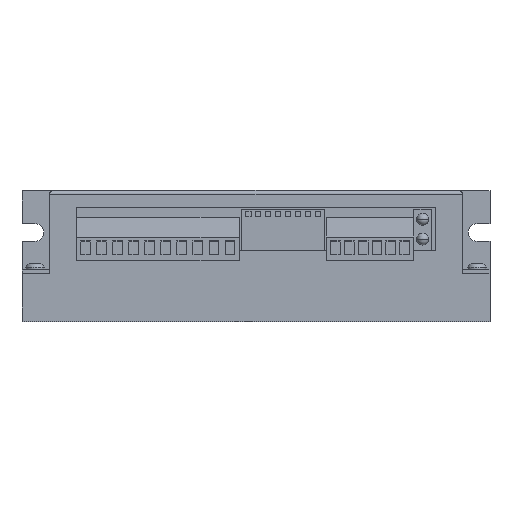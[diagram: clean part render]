
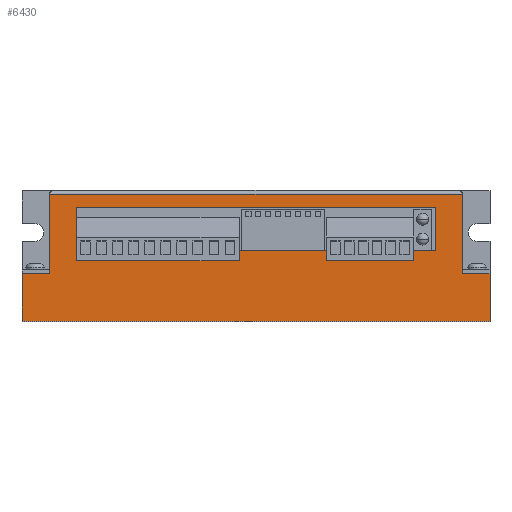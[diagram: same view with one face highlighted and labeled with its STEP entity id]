
A CAD part, top view. The second image highlights one B-rep face of the part: STEP entity #6430.
In plain terms, the highlighted planar face has unit normal (0, 0, 1).
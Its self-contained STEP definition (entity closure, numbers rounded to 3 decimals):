
#74 = VERTEX_POINT ( 'NONE', #11969 ) ;
#125 = VECTOR ( 'NONE', #7903, 1000. ) ;
#307 = LINE ( 'NONE', #13894, #6590 ) ;
#361 = DIRECTION ( 'NONE',  ( 0., -1., 0. ) ) ;
#654 = VERTEX_POINT ( 'NONE', #4434 ) ;
#711 = CARTESIAN_POINT ( 'NONE',  ( -73.278, 17.7, 27.951 ) ) ;
#855 = DIRECTION ( 'NONE',  ( 0., 1., 0. ) ) ;
#878 = ORIENTED_EDGE ( 'NONE', *, *, #9590, .F. ) ;
#1067 = VECTOR ( 'NONE', #5275, 1000. ) ;
#1097 = EDGE_CURVE ( 'NONE', #12603, #4885, #11695, .T. ) ;
#1160 = CARTESIAN_POINT ( 'NONE',  ( -80.028, 32., 27.951 ) ) ;
#1473 = VERTEX_POINT ( 'NONE', #6792 ) ;
#1584 = CARTESIAN_POINT ( 'NONE',  ( -87.028, 12., 27.951 ) ) ;
#1762 = LINE ( 'NONE', #7396, #8478 ) ;
#1789 = VERTEX_POINT ( 'NONE', #7668 ) ;
#1877 = EDGE_CURVE ( 'NONE', #14820, #1473, #307, .T. ) ;
#2265 = ORIENTED_EDGE ( 'NONE', *, *, #10390, .F. ) ;
#2302 = VECTOR ( 'NONE', #361, 1000. ) ;
#2317 = CARTESIAN_POINT ( 'NONE',  ( -73.278, 28.7, 27.951 ) ) ;
#2362 = DIRECTION ( 'NONE',  ( 0., -1., 0. ) ) ;
#2387 = DIRECTION ( 'NONE',  ( 1., 0., 0. ) ) ;
#2448 = VECTOR ( 'NONE', #4041, 1000. ) ;
#2484 = DIRECTION ( 'NONE',  ( 1., 0., 0. ) ) ;
#2935 = DIRECTION ( 'NONE',  ( 0., -1., 0. ) ) ;
#3090 = CARTESIAN_POINT ( 'NONE',  ( -80.028, 12., 27.951 ) ) ;
#3296 = LINE ( 'NONE', #13787, #3697 ) ;
#3479 = VECTOR ( 'NONE', #3590, 1000. ) ;
#3505 = VERTEX_POINT ( 'NONE', #14341 ) ;
#3558 = CARTESIAN_POINT ( 'NONE',  ( -73.278, 17.7, 27.951 ) ) ;
#3590 = DIRECTION ( 'NONE',  ( 0., 1., 0. ) ) ;
#3697 = VECTOR ( 'NONE', #2387, 1000. ) ;
#3996 = VECTOR ( 'NONE', #13205, 1000. ) ;
#4006 = LINE ( 'NONE', #11886, #13557 ) ;
#4041 = DIRECTION ( 'NONE',  ( 0., -1., 0. ) ) ;
#4199 = ORIENTED_EDGE ( 'NONE', *, *, #7724, .T. ) ;
#4201 = FACE_BOUND ( 'NONE', #5921, .T. ) ;
#4419 = FACE_OUTER_BOUND ( 'NONE', #6366, .T. ) ;
#4434 = CARTESIAN_POINT ( 'NONE',  ( 23.972, 12., 27.951 ) ) ;
#4639 = ORIENTED_EDGE ( 'NONE', *, *, #4670, .F. ) ;
#4670 = EDGE_CURVE ( 'NONE', #3505, #14820, #13161, .T. ) ;
#4885 = VERTEX_POINT ( 'NONE', #1160 ) ;
#5168 = CARTESIAN_POINT ( 'NONE',  ( 30.972, 33., 27.951 ) ) ;
#5222 = EDGE_CURVE ( 'NONE', #654, #74, #3296, .T. ) ;
#5256 = CARTESIAN_POINT ( 'NONE',  ( -87.028, 33., 27.951 ) ) ;
#5275 = DIRECTION ( 'NONE',  ( 0., -1., 0. ) ) ;
#5404 = CARTESIAN_POINT ( 'NONE',  ( 30.972, 0., 27.951 ) ) ;
#5467 = LINE ( 'NONE', #5168, #2448 ) ;
#5720 = VERTEX_POINT ( 'NONE', #8139 ) ;
#5921 = EDGE_LOOP ( 'NONE', ( #11018, #10955, #4639, #14280, #12718, #2265 ) ) ;
#5967 = ORIENTED_EDGE ( 'NONE', *, *, #14410, .F. ) ;
#6254 = EDGE_CURVE ( 'NONE', #5720, #654, #10658, .T. ) ;
#6366 = EDGE_LOOP ( 'NONE', ( #11722, #11920, #10951, #878, #8045, #4199, #5967, #13741 ) ) ;
#6430 = ADVANCED_FACE ( 'NONE', ( #4201, #4419 ), #13663, .F. ) ;
#6436 = CARTESIAN_POINT ( 'NONE',  ( 17.222, 28.7, 27.951 ) ) ;
#6590 = VECTOR ( 'NONE', #2484, 1000. ) ;
#6680 = CARTESIAN_POINT ( 'NONE',  ( -87.028, 33., 27.951 ) ) ;
#6792 = CARTESIAN_POINT ( 'NONE',  ( 17.222, 17.7, 27.951 ) ) ;
#6901 = CARTESIAN_POINT ( 'NONE',  ( -80.028, 33., 27.951 ) ) ;
#7347 = VECTOR ( 'NONE', #2935, 1000. ) ;
#7396 = CARTESIAN_POINT ( 'NONE',  ( -73.278, 28.7, 27.951 ) ) ;
#7432 = LINE ( 'NONE', #5256, #9704 ) ;
#7668 = CARTESIAN_POINT ( 'NONE',  ( -87.028, 12., 27.951 ) ) ;
#7724 = EDGE_CURVE ( 'NONE', #11688, #11444, #14657, .T. ) ;
#7899 = EDGE_CURVE ( 'NONE', #13187, #13271, #10375, .T. ) ;
#7903 = DIRECTION ( 'NONE',  ( 1., 0., 0. ) ) ;
#8025 = CARTESIAN_POINT ( 'NONE',  ( -87.028, 0., 27.951 ) ) ;
#8045 = ORIENTED_EDGE ( 'NONE', *, *, #11506, .T. ) ;
#8139 = CARTESIAN_POINT ( 'NONE',  ( 23.972, 32., 27.951 ) ) ;
#8424 = DIRECTION ( 'NONE',  ( -1., 0., 0. ) ) ;
#8433 = DIRECTION ( 'NONE',  ( -1., 0., 0. ) ) ;
#8478 = VECTOR ( 'NONE', #8433, 1000. ) ;
#8872 = CARTESIAN_POINT ( 'NONE',  ( 17.222, 28.7, 27.951 ) ) ;
#8998 = VECTOR ( 'NONE', #855, 1000. ) ;
#9590 = EDGE_CURVE ( 'NONE', #1789, #12603, #14183, .T. ) ;
#9704 = VECTOR ( 'NONE', #14267, 1000. ) ;
#9902 = DIRECTION ( 'NONE',  ( 0., 0., -1. ) ) ;
#9983 = EDGE_CURVE ( 'NONE', #13271, #3505, #10780, .T. ) ;
#10375 = LINE ( 'NONE', #3558, #13331 ) ;
#10390 = EDGE_CURVE ( 'NONE', #13051, #13187, #1762, .T. ) ;
#10658 = LINE ( 'NONE', #14271, #7347 ) ;
#10780 = LINE ( 'NONE', #14162, #2302 ) ;
#10951 = ORIENTED_EDGE ( 'NONE', *, *, #1097, .F. ) ;
#10955 = ORIENTED_EDGE ( 'NONE', *, *, #1877, .F. ) ;
#11018 = ORIENTED_EDGE ( 'NONE', *, *, #12249, .F. ) ;
#11444 = VERTEX_POINT ( 'NONE', #5404 ) ;
#11506 = EDGE_CURVE ( 'NONE', #1789, #11688, #7432, .T. ) ;
#11688 = VERTEX_POINT ( 'NONE', #8025 ) ;
#11695 = LINE ( 'NONE', #6901, #3479 ) ;
#11722 = ORIENTED_EDGE ( 'NONE', *, *, #6254, .F. ) ;
#11886 = CARTESIAN_POINT ( 'NONE',  ( -80.028, 32., 27.951 ) ) ;
#11920 = ORIENTED_EDGE ( 'NONE', *, *, #12117, .T. ) ;
#11969 = CARTESIAN_POINT ( 'NONE',  ( 30.972, 12., 27.951 ) ) ;
#12117 = EDGE_CURVE ( 'NONE', #5720, #4885, #4006, .T. ) ;
#12249 = EDGE_CURVE ( 'NONE', #1473, #13051, #13231, .T. ) ;
#12603 = VERTEX_POINT ( 'NONE', #3090 ) ;
#12670 = CARTESIAN_POINT ( 'NONE',  ( -73.278, 25.2, 27.951 ) ) ;
#12718 = ORIENTED_EDGE ( 'NONE', *, *, #7899, .F. ) ;
#13051 = VERTEX_POINT ( 'NONE', #6436 ) ;
#13161 = LINE ( 'NONE', #711, #1067 ) ;
#13187 = VERTEX_POINT ( 'NONE', #2317 ) ;
#13205 = DIRECTION ( 'NONE',  ( 1., 0., 0. ) ) ;
#13231 = LINE ( 'NONE', #8872, #8998 ) ;
#13271 = VERTEX_POINT ( 'NONE', #12670 ) ;
#13331 = VECTOR ( 'NONE', #2362, 1000. ) ;
#13536 = CARTESIAN_POINT ( 'NONE',  ( -87.028, 0., 27.951 ) ) ;
#13557 = VECTOR ( 'NONE', #8424, 1000. ) ;
#13601 = AXIS2_PLACEMENT_3D ( 'NONE', #6680, #9902, #14487 ) ;
#13663 = PLANE ( 'NONE',  #13601 ) ;
#13741 = ORIENTED_EDGE ( 'NONE', *, *, #5222, .F. ) ;
#13771 = CARTESIAN_POINT ( 'NONE',  ( -73.278, 17.7, 27.951 ) ) ;
#13787 = CARTESIAN_POINT ( 'NONE',  ( 30.972, 12., 27.951 ) ) ;
#13894 = CARTESIAN_POINT ( 'NONE',  ( 17.222, 17.7, 27.951 ) ) ;
#14162 = CARTESIAN_POINT ( 'NONE',  ( -73.278, 17.7, 27.951 ) ) ;
#14183 = LINE ( 'NONE', #1584, #3996 ) ;
#14267 = DIRECTION ( 'NONE',  ( 0., -1., 0. ) ) ;
#14271 = CARTESIAN_POINT ( 'NONE',  ( 23.972, 33., 27.951 ) ) ;
#14280 = ORIENTED_EDGE ( 'NONE', *, *, #9983, .F. ) ;
#14341 = CARTESIAN_POINT ( 'NONE',  ( -73.278, 18.2, 27.951 ) ) ;
#14410 = EDGE_CURVE ( 'NONE', #74, #11444, #5467, .T. ) ;
#14487 = DIRECTION ( 'NONE',  ( -1., 0., 0. ) ) ;
#14657 = LINE ( 'NONE', #13536, #125 ) ;
#14820 = VERTEX_POINT ( 'NONE', #13771 ) ;
